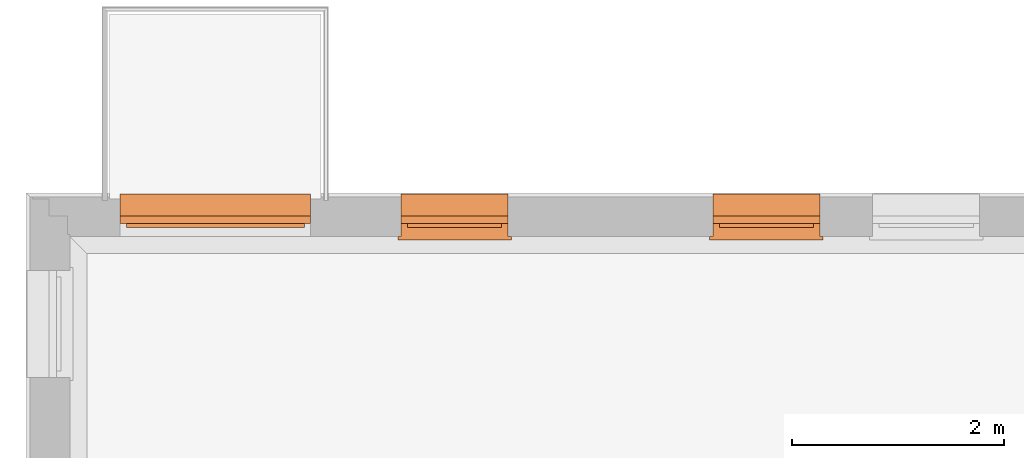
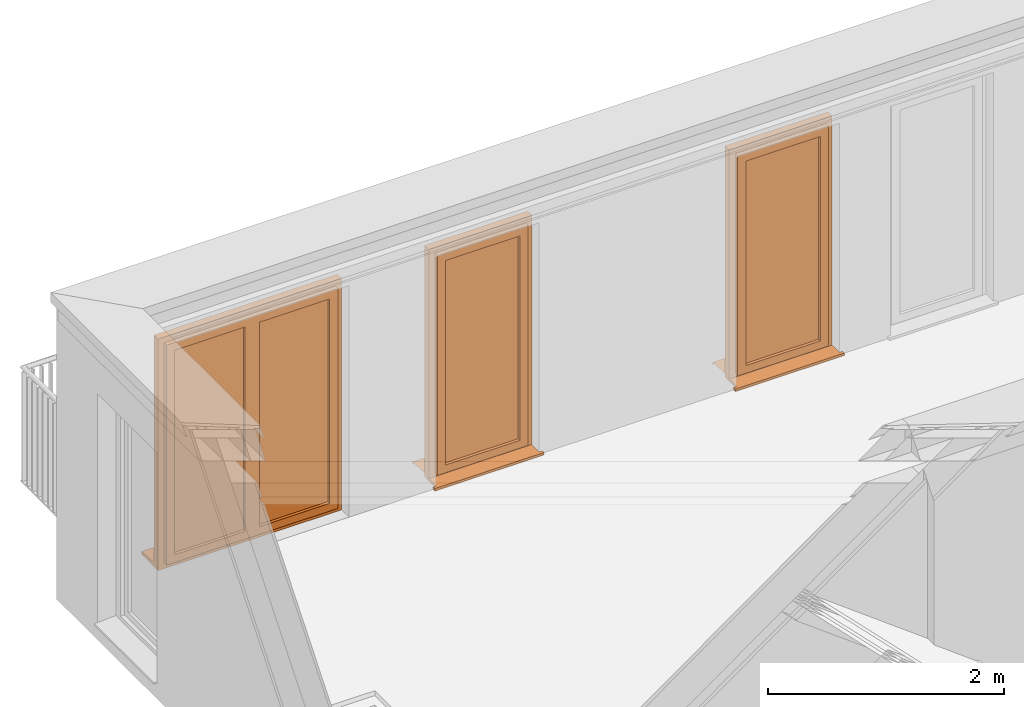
# One storey, part 14 of 15: 3 proxies.
"""IFC4 building model written with IfcOpenShell, lengths in metres."""

from ifc_helpers import new_model, entity, si_unit, converted_unit, derived_unit, direction, frame, origin_with_axes, place, context, subcontext, project, spatial, triangles, type_object, element, save


model = new_model("IFC4")

# Units and contexts
model_context = context("Model", 3, precision=1e-05, world=origin_with_axes(), true_north=direction((-0.526213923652, 0.850352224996)))
body_context = subcontext(model_context, "Body", "Model", "MODEL_VIEW")
ifc_project = project(units=[si_unit("LENGTHUNIT", "METRE"), si_unit("AREAUNIT", "SQUARE_METRE"), si_unit("VOLUMEUNIT", "CUBIC_METRE"), converted_unit("PLANEANGLEUNIT", "DEGREE", entity("IfcPlaneAngleMeasure", 0.0174532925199), si_unit("PLANEANGLEUNIT", "RADIAN"), dimensions=[0, 0, 0, 0, 0, 0, 0]), si_unit("SOLIDANGLEUNIT", "STERADIAN"), converted_unit("TIMEUNIT", "Year", entity("IfcTimeMeasure", 31556926.0), si_unit("TIMEUNIT", "SECOND"), dimensions=[0, 0, 1, 0, 0, 0, 0]), si_unit("MASSUNIT", "GRAM", prefix="KILO"), si_unit("THERMODYNAMICTEMPERATUREUNIT", "DEGREE_CELSIUS"), si_unit("LUMINOUSINTENSITYUNIT", "LUMEN"), si_unit("ENERGYUNIT", "JOULE", prefix="MEGA"), derived_unit("THERMALCONDUCTANCEUNIT", [(si_unit("POWERUNIT", "WATT"), 1), (si_unit("LENGTHUNIT", "METRE"), -1), (si_unit("THERMODYNAMICTEMPERATUREUNIT", "KELVIN"), -1)]), derived_unit("SPECIFICHEATCAPACITYUNIT", [(si_unit("ENERGYUNIT", "JOULE"), 1), (si_unit("MASSUNIT", "GRAM", prefix="KILO"), -1), (si_unit("THERMODYNAMICTEMPERATUREUNIT", "KELVIN"), -1)]), derived_unit("MASSDENSITYUNIT", [(si_unit("MASSUNIT", "GRAM", prefix="KILO"), 1), (si_unit("VOLUMEUNIT", "CUBIC_METRE"), -1)])], contexts=[model_context])

# Site, building, storey
site_placement = place(None, origin_with_axes())
site = spatial("IfcSite", under=ifc_project, at=site_placement, Name="Gelände", CompositionType="ELEMENT")
building_placement = place(site_placement, origin_with_axes())
building = spatial("IfcBuilding", under=site, at=building_placement, Name="Haus vom Nikolaus", CompositionType="ELEMENT")
storey_placement = place(building_placement, frame((0.0, 0.0, 3.75), z_axis=(0.0, 0.0, 1.0), x_axis=(1.0, 0.0, 0.0)))
storey = spatial("IfcBuildingStorey", under=building, at=storey_placement, Name="1. OG", CompositionType="ELEMENT", Elevation=3.75)

# Proxies
building_element_proxy_type_1 = type_object("IfcBuildingElementProxyType", Name="1-Flügelfenster 22", PredefinedType="NOTDEFINED")
proxy_1_placement = place(storey_placement, frame((4.40038204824, 12.6198324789, 0.15), z_axis=(0.0, 0.0, 1.0), x_axis=(-1.0, 5.99993595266e-08, 0.0)))
element("IfcBuildingElementProxy", 1, at=proxy_1_placement, inside=storey, type_object=building_element_proxy_type_1, Name="Fenster-015", PredefinedType="NOTDEFINED", context=body_context, shape_type="Tessellation", body=[
    triangles([(1.17598819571e-08, -0.19600024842, 0.04), (1.01000001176, -0.196000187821, 0.05), (1.17598819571e-08, -0.19600024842, 0.05), (1.01000001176, -0.196000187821, 0.04), (1.0100000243, -0.405000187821, 0.0283333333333), (2.42997479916e-08, -0.40500024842, 0.0283333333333), (2.42997479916e-08, -0.40500024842, 0.00833333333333), (1.0100000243, -0.405000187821, 0.00833333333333), (1.0100000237, -0.395000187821, 0.0183333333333), (2.36997541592e-08, -0.39500024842, 0.0183333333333)], [[1, 2, 3], [1, 4, 2], [5, 1, 6], [1, 5, 4], [7, 5, 6], [7, 8, 5], [9, 7, 10], [7, 9, 8]], closed=False),
    triangles([(0.0, -2.48420416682e-07, 0.025), (7.49992690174e-09, -0.12500024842, 0.0), (7.49992690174e-09, -0.12500024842, 0.025), (0.0, -2.48420416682e-07, 0.0), (1.0100000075, -0.125000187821, 0.0), (1.0100000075, -0.125000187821, 0.025), (1.0399999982, 0.0299998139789, 0.025), (-0.0300000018, 0.0299997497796, 0.025), (1.01, -1.87821063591e-07, 0.025), (1.04, -1.86021081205e-07, 0.025), (-0.03, -2.50220397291e-07, 0.025), (-0.03, -2.50220397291e-07, 0.0), (-0.0300000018, 0.0299997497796, 0.0), (1.01, -1.87821063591e-07, 0.0), (1.0399999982, 0.0299998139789, 0.0), (1.04, -1.86021081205e-07, 0.0)], [[1, 2, 3], [1, 4, 2], [3, 5, 6], [3, 2, 5], [1, 7, 8], [1, 6, 9], [7, 9, 10], [11, 1, 8], [6, 1, 3], [7, 1, 9], [11, 4, 1], [11, 12, 4], [12, 13, 4], [14, 4, 15], [15, 4, 13], [4, 5, 2], [14, 15, 16], [5, 4, 14], [6, 14, 9], [6, 5, 14], [9, 16, 10], [9, 14, 16], [10, 15, 7], [10, 16, 15], [7, 13, 8], [7, 15, 13], [8, 12, 11], [8, 13, 12]], closed=True),
    triangles([(1.0100000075, -0.125000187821, 0.0), (0.9300000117, -0.195000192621, 0.08), (0.9300000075, -0.125000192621, 0.08), (1.0100000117, -0.195000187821, 0.0), (0.9300000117, -0.195000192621, 2.32), (1.0100000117, -0.195000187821, 2.4), (0.9300000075, -0.125000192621, 2.32), (1.0100000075, -0.125000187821, 2.4)], [[1, 2, 3], [2, 1, 4], [5, 4, 6], [5, 2, 4], [7, 2, 5], [7, 3, 2], [3, 8, 1], [8, 3, 7], [1, 6, 4], [1, 8, 6], [8, 5, 6], [8, 7, 5]], closed=True),
    triangles([(7.49992690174e-09, -0.12500024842, 2.4), (1.16998828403e-08, -0.19500024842, 0.0), (1.16998828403e-08, -0.19500024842, 2.4), (7.49992690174e-09, -0.12500024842, 0.0), (0.0800000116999, -0.19500024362, 2.32), (0.0800000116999, -0.19500024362, 0.08), (0.0800000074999, -0.12500024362, 2.32), (0.0800000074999, -0.12500024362, 0.08)], [[1, 2, 3], [1, 4, 2], [3, 2, 5], [5, 2, 6], [7, 3, 5], [7, 1, 3], [7, 4, 1], [7, 8, 4], [8, 2, 4], [2, 8, 6], [8, 5, 6], [8, 7, 5]], closed=True),
    triangles([(1.0100000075, -0.125000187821, 0.0), (1.16998828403e-08, -0.19500024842, 0.0), (7.49992690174e-09, -0.12500024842, 0.0), (1.0100000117, -0.195000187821, 0.0), (0.5050000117, -0.195000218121, 0.08), (0.9300000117, -0.195000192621, 0.08), (0.0800000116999, -0.19500024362, 0.08), (0.0800000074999, -0.12500024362, 0.08), (0.5050000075, -0.125000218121, 0.08), (0.9300000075, -0.125000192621, 0.08)], [[1, 2, 3], [2, 1, 4], [2, 4, 5], [5, 4, 6], [2, 5, 7], [8, 2, 7], [8, 3, 2], [9, 3, 8], [10, 1, 9], [3, 9, 1], [1, 6, 4], [1, 10, 6], [9, 6, 10], [6, 9, 5], [9, 7, 5], [9, 8, 7]], closed=True),
    triangles([(1.0100000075, -0.125000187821, 2.4), (0.9300000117, -0.195000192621, 2.32), (0.9300000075, -0.125000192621, 2.32), (1.0100000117, -0.195000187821, 2.4), (0.5050000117, -0.195000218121, 2.32), (1.16998828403e-08, -0.19500024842, 2.4), (0.0800000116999, -0.19500024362, 2.32), (0.5050000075, -0.125000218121, 2.32), (7.49992690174e-09, -0.12500024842, 2.4), (0.0800000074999, -0.12500024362, 2.32)], [[1, 2, 3], [2, 1, 4], [5, 6, 7], [2, 4, 5], [6, 5, 4], [8, 2, 5], [8, 3, 2], [9, 1, 8], [8, 1, 3], [9, 8, 10], [1, 6, 4], [1, 9, 6], [10, 6, 9], [6, 10, 7], [8, 7, 10], [7, 8, 5]], closed=True),
    triangles([(0.9500000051, -0.085000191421, 0.06), (0.8700000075, -0.125000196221, 0.14), (0.8700000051, -0.085000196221, 0.14), (0.9500000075, -0.125000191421, 0.06), (0.8700000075, -0.125000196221, 2.26), (0.9500000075, -0.125000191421, 2.34), (0.8700000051, -0.085000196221, 2.26), (0.9500000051, -0.085000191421, 2.34)], [[1, 2, 3], [2, 1, 4], [5, 4, 6], [5, 2, 4], [7, 2, 5], [7, 3, 2], [8, 1, 7], [7, 1, 3], [1, 6, 4], [1, 8, 6], [7, 6, 8], [6, 7, 5]], closed=True),
    triangles([(0.1400000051, -0.0850002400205, 0.14), (0.0600000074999, -0.12500024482, 0.06), (0.0600000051, -0.0850002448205, 0.06), (0.1400000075, -0.125000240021, 0.14), (0.0600000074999, -0.12500024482, 2.34), (0.0600000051, -0.0850002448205, 2.34), (0.1400000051, -0.0850002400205, 2.26), (0.1400000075, -0.125000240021, 2.26)], [[1, 2, 3], [1, 4, 2], [3, 5, 6], [3, 2, 5], [7, 3, 6], [7, 1, 3], [7, 4, 1], [7, 8, 4], [5, 2, 8], [8, 2, 4], [5, 7, 6], [7, 5, 8]], closed=True),
    triangles([(0.9500000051, -0.085000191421, 0.06), (0.0600000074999, -0.12500024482, 0.06), (0.0600000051, -0.0850002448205, 0.06), (0.9500000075, -0.125000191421, 0.06), (0.8700000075, -0.125000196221, 0.14), (0.1400000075, -0.125000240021, 0.14), (0.1400000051, -0.0850002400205, 0.14), (0.8700000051, -0.085000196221, 0.14)], [[1, 2, 3], [2, 1, 4], [5, 2, 4], [2, 5, 6], [7, 2, 6], [7, 3, 2], [8, 3, 7], [3, 8, 1], [1, 5, 4], [1, 8, 5], [8, 6, 5], [8, 7, 6]], closed=True),
    triangles([(0.0600000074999, -0.12500024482, 2.34), (0.9500000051, -0.085000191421, 2.34), (0.0600000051, -0.0850002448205, 2.34), (0.9500000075, -0.125000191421, 2.34), (0.8700000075, -0.125000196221, 2.26), (0.8700000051, -0.085000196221, 2.26), (0.1400000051, -0.0850002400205, 2.26), (0.1400000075, -0.125000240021, 2.26)], [[1, 2, 3], [2, 1, 4], [2, 5, 6], [2, 4, 5], [3, 2, 7], [7, 2, 6], [7, 1, 3], [7, 8, 1], [8, 4, 1], [8, 5, 4], [6, 8, 7], [6, 5, 8]], closed=True),
    triangles([(0.8700000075, -0.125000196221, 0.14), (0.9300000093, -0.155000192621, 0.08), (0.8700000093, -0.155000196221, 0.14), (0.9300000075, -0.125000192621, 0.08), (0.9300000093, -0.155000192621, 2.32), (0.8700000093, -0.155000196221, 2.26), (0.8700000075, -0.125000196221, 2.26), (0.9300000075, -0.125000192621, 2.32)], [[1, 2, 3], [1, 4, 2], [3, 5, 6], [5, 3, 2], [7, 3, 6], [7, 1, 3], [1, 8, 4], [8, 1, 7], [4, 5, 2], [4, 8, 5], [7, 5, 8], [5, 7, 6]], closed=True),
    triangles([(0.1400000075, -0.125000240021, 0.14), (0.0800000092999, -0.15500024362, 0.08), (0.0800000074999, -0.12500024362, 0.08), (0.1400000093, -0.155000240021, 0.14), (0.0800000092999, -0.15500024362, 2.32), (0.0800000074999, -0.12500024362, 2.32), (0.1400000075, -0.125000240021, 2.26), (0.1400000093, -0.155000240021, 2.26)], [[1, 2, 3], [1, 4, 2], [3, 5, 6], [3, 2, 5], [1, 6, 7], [6, 1, 3], [7, 4, 1], [7, 8, 4], [4, 5, 2], [5, 4, 8], [6, 8, 7], [6, 5, 8]], closed=True),
    triangles([(0.9300000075, -0.125000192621, 0.08), (0.0800000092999, -0.15500024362, 0.08), (0.0800000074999, -0.12500024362, 0.08), (0.9300000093, -0.155000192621, 0.08), (0.1400000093, -0.155000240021, 0.14), (0.8700000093, -0.155000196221, 0.14), (0.1400000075, -0.125000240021, 0.14), (0.8700000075, -0.125000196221, 0.14)], [[1, 2, 3], [2, 1, 4], [2, 4, 5], [5, 4, 6], [7, 2, 5], [7, 3, 2], [7, 1, 3], [7, 8, 1], [8, 4, 1], [4, 8, 6], [8, 5, 6], [8, 7, 5]], closed=True),
    triangles([(0.0800000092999, -0.15500024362, 2.32), (0.9300000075, -0.125000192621, 2.32), (0.0800000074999, -0.12500024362, 2.32), (0.9300000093, -0.155000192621, 2.32), (0.8700000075, -0.125000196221, 2.26), (0.8700000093, -0.155000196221, 2.26), (0.1400000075, -0.125000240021, 2.26), (0.1400000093, -0.155000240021, 2.26)], [[1, 2, 3], [2, 1, 4], [4, 5, 2], [5, 4, 6], [3, 2, 7], [7, 2, 5], [7, 1, 3], [7, 8, 1], [8, 4, 1], [8, 6, 4], [5, 8, 7], [5, 6, 8]], closed=True),
    triangles([(0.1400000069, -0.115000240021, 0.14), (0.8700000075, -0.125000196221, 0.14), (0.1400000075, -0.125000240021, 0.14), (0.8700000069, -0.115000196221, 0.14), (0.1400000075, -0.125000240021, 2.26), (0.8700000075, -0.125000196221, 2.26), (0.1400000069, -0.115000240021, 2.26), (0.8700000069, -0.115000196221, 2.26)], [[1, 2, 3], [1, 4, 2], [5, 2, 6], [5, 3, 2], [7, 3, 5], [7, 1, 3], [7, 4, 1], [7, 8, 4], [4, 6, 2], [4, 8, 6], [7, 6, 8], [6, 7, 5]], closed=True),
])
proxy_2_placement = place(storey_placement, frame((7.34538204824, 12.6198323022, 0.15), z_axis=(0.0, 0.0, 1.0), x_axis=(-1.0, 5.99993595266e-08, 0.0)))
element("IfcBuildingElementProxy", 2, at=proxy_2_placement, inside=storey, type_object=building_element_proxy_type_1, Name="Fenster-002", PredefinedType="NOTDEFINED", context=body_context, shape_type="Tessellation", body=[
    triangles([(1.01000001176, -0.196000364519, 0.04), (1.17598872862e-08, -0.196000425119, 0.05), (1.17598872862e-08, -0.196000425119, 0.04), (1.01000001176, -0.196000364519, 0.05), (1.0100000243, -0.405000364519, 0.0283333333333), (2.42997533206e-08, -0.405000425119, 0.0283333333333), (1.0100000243, -0.405000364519, 0.00833333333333), (2.42997533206e-08, -0.405000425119, 0.00833333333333), (1.0100000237, -0.395000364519, 0.0183333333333), (2.36997594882e-08, -0.395000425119, 0.0183333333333)], [[1, 2, 3], [1, 4, 2], [5, 3, 6], [5, 1, 3], [7, 6, 8], [7, 5, 6], [9, 8, 10], [9, 7, 8]], closed=False),
    triangles([(1.01, -3.64519175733e-07, 0.025), (1.0100000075, -0.125000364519, 0.0), (1.01, -3.64519175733e-07, 0.0), (1.0100000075, -0.125000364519, 0.025), (-0.0300000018, 0.0299995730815, 0.0), (1.0399999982, 0.0299996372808, 0.0), (0.0, -4.251185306e-07, 0.0), (7.49993223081e-09, -0.125000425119, 0.0), (-0.03, -4.26918511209e-07, 0.0), (1.04, -3.62719195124e-07, 0.0), (1.04, -3.62719195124e-07, 0.025), (1.0399999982, 0.0299996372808, 0.025), (0.0, -4.251185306e-07, 0.025), (-0.0300000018, 0.0299995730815, 0.025), (7.49993223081e-09, -0.125000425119, 0.025), (-0.03, -4.26918511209e-07, 0.025)], [[1, 2, 3], [1, 4, 2], [3, 5, 6], [7, 2, 8], [5, 7, 9], [10, 3, 6], [3, 2, 7], [5, 3, 7], [11, 3, 10], [11, 1, 3], [11, 12, 1], [13, 1, 14], [14, 1, 12], [13, 15, 4], [13, 14, 16], [1, 13, 4], [4, 8, 2], [4, 15, 8], [15, 7, 8], [15, 13, 7], [13, 9, 7], [13, 16, 9], [16, 5, 9], [16, 14, 5], [14, 6, 5], [14, 12, 6], [12, 10, 6], [12, 11, 10]], closed=True),
    triangles([(0.0800000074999, -0.125000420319, 0.08), (1.16998881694e-08, -0.195000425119, 0.0), (7.49993223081e-09, -0.125000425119, 0.0), (0.0800000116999, -0.195000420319, 0.08), (1.16998881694e-08, -0.195000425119, 2.4), (7.49993223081e-09, -0.125000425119, 2.4), (0.0800000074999, -0.125000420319, 2.32), (0.0800000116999, -0.195000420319, 2.32)], [[1, 2, 3], [1, 4, 2], [3, 5, 6], [3, 2, 5], [7, 3, 6], [7, 1, 3], [7, 4, 1], [7, 8, 4], [5, 2, 8], [8, 2, 4], [5, 7, 6], [7, 5, 8]], closed=True),
    triangles([(1.0100000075, -0.125000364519, 2.4), (1.0100000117, -0.195000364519, 0.0), (1.0100000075, -0.125000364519, 0.0), (1.0100000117, -0.195000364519, 2.4), (0.9300000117, -0.195000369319, 0.08), (0.9300000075, -0.125000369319, 0.08), (0.9300000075, -0.125000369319, 2.32), (0.9300000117, -0.195000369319, 2.32)], [[1, 2, 3], [1, 4, 2], [3, 5, 6], [3, 2, 5], [6, 1, 3], [1, 6, 7], [8, 1, 7], [1, 8, 4], [8, 2, 4], [8, 5, 2], [6, 8, 7], [6, 5, 8]], closed=True),
    triangles([(1.0100000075, -0.125000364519, 0.0), (1.16998881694e-08, -0.195000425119, 0.0), (7.49993223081e-09, -0.125000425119, 0.0), (1.0100000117, -0.195000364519, 0.0), (0.0800000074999, -0.125000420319, 0.08), (0.0800000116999, -0.195000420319, 0.08), (0.5050000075, -0.125000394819, 0.08), (0.9300000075, -0.125000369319, 0.08), (0.9300000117, -0.195000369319, 0.08), (0.5050000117, -0.195000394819, 0.08)], [[1, 2, 3], [1, 4, 2], [2, 5, 3], [5, 2, 6], [1, 3, 7], [7, 3, 5], [1, 7, 8], [9, 1, 8], [1, 9, 4], [10, 4, 9], [6, 2, 10], [4, 10, 2], [6, 7, 5], [7, 6, 10], [10, 8, 7], [8, 10, 9]], closed=True),
    triangles([(0.0800000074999, -0.125000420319, 2.32), (1.16998881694e-08, -0.195000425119, 2.4), (7.49993223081e-09, -0.125000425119, 2.4), (0.0800000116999, -0.195000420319, 2.32), (1.0100000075, -0.125000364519, 2.4), (1.0100000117, -0.195000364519, 2.4), (0.5050000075, -0.125000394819, 2.32), (0.9300000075, -0.125000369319, 2.32), (0.5050000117, -0.195000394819, 2.32), (0.9300000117, -0.195000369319, 2.32)], [[1, 2, 3], [1, 4, 2], [2, 5, 3], [5, 2, 6], [7, 5, 8], [1, 3, 7], [5, 7, 3], [7, 4, 1], [7, 9, 4], [6, 2, 9], [9, 2, 4], [6, 9, 10], [5, 10, 8], [5, 6, 10], [8, 9, 7], [8, 10, 9]], closed=True),
    triangles([(0.1400000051, -0.0850004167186, 0.14), (0.0600000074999, -0.125000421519, 0.06), (0.0600000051, -0.0850004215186, 0.06), (0.1400000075, -0.125000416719, 0.14), (0.0600000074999, -0.125000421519, 2.34), (0.0600000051, -0.0850004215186, 2.34), (0.1400000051, -0.0850004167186, 2.26), (0.1400000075, -0.125000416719, 2.26)], [[1, 2, 3], [1, 4, 2], [3, 5, 6], [3, 2, 5], [7, 3, 6], [7, 1, 3], [7, 4, 1], [7, 8, 4], [4, 5, 2], [5, 4, 8], [5, 7, 6], [7, 5, 8]], closed=True),
    triangles([(0.8700000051, -0.0850003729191, 0.14), (0.9500000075, -0.125000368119, 0.06), (0.8700000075, -0.125000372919, 0.14), (0.9500000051, -0.0850003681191, 0.06), (0.8700000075, -0.125000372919, 2.26), (0.9500000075, -0.125000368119, 2.34), (0.8700000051, -0.0850003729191, 2.26), (0.9500000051, -0.0850003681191, 2.34)], [[1, 2, 3], [1, 4, 2], [5, 2, 6], [5, 3, 2], [7, 3, 5], [7, 1, 3], [8, 4, 7], [7, 4, 1], [4, 6, 2], [4, 8, 6], [7, 6, 8], [6, 7, 5]], closed=True),
    triangles([(0.9500000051, -0.0850003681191, 0.06), (0.0600000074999, -0.125000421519, 0.06), (0.0600000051, -0.0850004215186, 0.06), (0.9500000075, -0.125000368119, 0.06), (0.1400000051, -0.0850004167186, 0.14), (0.1400000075, -0.125000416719, 0.14), (0.8700000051, -0.0850003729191, 0.14), (0.8700000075, -0.125000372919, 0.14)], [[1, 2, 3], [1, 4, 2], [2, 5, 3], [5, 2, 6], [1, 3, 7], [7, 3, 5], [7, 4, 1], [7, 8, 4], [8, 2, 4], [8, 6, 2], [6, 7, 5], [7, 6, 8]], closed=True),
    triangles([(0.9500000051, -0.0850003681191, 2.34), (0.0600000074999, -0.125000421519, 2.34), (0.9500000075, -0.125000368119, 2.34), (0.0600000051, -0.0850004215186, 2.34), (0.8700000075, -0.125000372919, 2.26), (0.1400000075, -0.125000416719, 2.26), (0.8700000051, -0.0850003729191, 2.26), (0.1400000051, -0.0850004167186, 2.26)], [[1, 2, 3], [1, 4, 2], [3, 2, 5], [5, 2, 6], [7, 3, 5], [7, 1, 3], [7, 4, 1], [7, 8, 4], [8, 2, 4], [2, 8, 6], [7, 6, 8], [6, 7, 5]], closed=True),
    triangles([(0.1400000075, -0.125000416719, 0.14), (0.0800000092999, -0.155000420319, 0.08), (0.0800000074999, -0.125000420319, 0.08), (0.1400000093, -0.155000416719, 0.14), (0.0800000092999, -0.155000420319, 2.32), (0.0800000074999, -0.125000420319, 2.32), (0.1400000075, -0.125000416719, 2.26), (0.1400000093, -0.155000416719, 2.26)], [[1, 2, 3], [1, 4, 2], [3, 5, 6], [3, 2, 5], [1, 6, 7], [6, 1, 3], [7, 4, 1], [7, 8, 4], [4, 5, 2], [5, 4, 8], [6, 8, 7], [6, 5, 8]], closed=True),
    triangles([(0.9300000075, -0.125000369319, 0.08), (0.8700000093, -0.155000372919, 0.14), (0.8700000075, -0.125000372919, 0.14), (0.9300000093, -0.155000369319, 0.08), (0.9300000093, -0.155000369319, 2.32), (0.8700000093, -0.155000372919, 2.26), (0.8700000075, -0.125000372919, 2.26), (0.9300000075, -0.125000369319, 2.32)], [[1, 2, 3], [2, 1, 4], [2, 5, 6], [5, 2, 4], [7, 2, 6], [7, 3, 2], [8, 1, 7], [7, 1, 3], [1, 5, 4], [1, 8, 5], [8, 6, 5], [8, 7, 6]], closed=True),
    triangles([(0.9300000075, -0.125000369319, 0.08), (0.0800000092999, -0.155000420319, 0.08), (0.0800000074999, -0.125000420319, 0.08), (0.9300000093, -0.155000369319, 0.08), (0.1400000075, -0.125000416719, 0.14), (0.1400000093, -0.155000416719, 0.14), (0.8700000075, -0.125000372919, 0.14), (0.8700000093, -0.155000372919, 0.14)], [[1, 2, 3], [1, 4, 2], [2, 5, 3], [5, 2, 6], [1, 3, 7], [7, 3, 5], [8, 1, 7], [1, 8, 4], [8, 2, 4], [8, 6, 2], [6, 7, 5], [7, 6, 8]], closed=True),
    triangles([(0.9300000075, -0.125000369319, 2.32), (0.0800000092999, -0.155000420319, 2.32), (0.9300000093, -0.155000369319, 2.32), (0.0800000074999, -0.125000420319, 2.32), (0.8700000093, -0.155000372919, 2.26), (0.1400000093, -0.155000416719, 2.26), (0.8700000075, -0.125000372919, 2.26), (0.1400000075, -0.125000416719, 2.26)], [[1, 2, 3], [1, 4, 2], [3, 2, 5], [5, 2, 6], [7, 3, 5], [7, 1, 3], [7, 4, 1], [7, 8, 4], [4, 6, 2], [4, 8, 6], [7, 6, 8], [6, 7, 5]], closed=True),
    triangles([(0.8700000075, -0.125000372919, 0.14), (0.1400000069, -0.115000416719, 0.14), (0.8700000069, -0.115000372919, 0.14), (0.1400000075, -0.125000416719, 0.14), (0.1400000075, -0.125000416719, 2.26), (0.1400000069, -0.115000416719, 2.26), (0.8700000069, -0.115000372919, 2.26), (0.8700000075, -0.125000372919, 2.26)], [[1, 2, 3], [2, 1, 4], [2, 5, 6], [2, 4, 5], [7, 2, 6], [7, 3, 2], [7, 1, 3], [7, 8, 1], [8, 4, 1], [8, 5, 4], [6, 8, 7], [6, 5, 8]], closed=True),
])
building_element_proxy_type_2 = type_object("IfcBuildingElementProxyType", Name="2-Flügelfenster 22", PredefinedType="NOTDEFINED")
proxy_3_placement = place(storey_placement, frame((2.53499761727, 12.6198325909, 0.15), z_axis=(0.0, 0.0, 1.0), x_axis=(-1.0, 5.99993595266e-08, 0.0)))
element("IfcBuildingElementProxy", 3, at=proxy_3_placement, inside=storey, type_object=building_element_proxy_type_2, Name="Fenster-007", PredefinedType="NOTDEFINED", context=body_context, shape_type="Tessellation", body=[
    triangles([(1.8000000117, -0.1950000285, 0.05), (1.16998792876e-08, -0.195000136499, 0.0), (1.16998792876e-08, -0.195000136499, 0.05), (1.8000000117, -0.1950000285, 0.0), (1.229987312e-08, -0.205000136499, 0.04), (2.32797559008e-08, -0.388000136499, 0.0), (2.32797559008e-08, -0.388000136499, 0.007), (2.42997448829e-08, -0.405000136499, 0.03), (2.36997510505e-08, -0.395000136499, 0.007), (2.42997448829e-08, -0.405000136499, 0.0), (2.36997510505e-08, -0.395000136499, 0.0), (1.229987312e-08, -0.205000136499, 0.05), (1.8000000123, -0.2050000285, 0.05), (1.80000002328, -0.3880000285, 0.0), (1.8000000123, -0.2050000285, 0.04), (1.80000002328, -0.3880000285, 0.007), (1.8000000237, -0.3950000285, 0.007), (1.8000000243, -0.4050000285, 0.0), (1.8000000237, -0.3950000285, 0.0), (1.8000000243, -0.4050000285, 0.03)], [[1, 2, 3], [1, 4, 2], [3, 2, 5], [5, 6, 7], [8, 7, 9], [10, 8, 9], [10, 9, 11], [6, 5, 2], [3, 5, 12], [8, 5, 7], [1, 12, 13], [12, 1, 3], [14, 15, 16], [15, 1, 13], [17, 18, 19], [1, 15, 4], [15, 20, 16], [15, 14, 4], [16, 20, 17], [18, 17, 20], [4, 6, 2], [4, 14, 6], [14, 7, 6], [14, 16, 7], [17, 7, 16], [7, 17, 9], [17, 11, 9], [17, 19, 11], [18, 11, 19], [11, 18, 10], [18, 8, 10], [18, 20, 8], [20, 5, 8], [20, 15, 5], [15, 12, 5], [15, 13, 12]], closed=True),
    triangles([(0.0800000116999, -0.195000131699, 0.08), (7.49992423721e-09, -0.125000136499, 0.0), (0.0800000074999, -0.125000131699, 0.08), (1.16998792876e-08, -0.195000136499, 0.0), (1.16998792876e-08, -0.195000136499, 2.4), (7.49992423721e-09, -0.125000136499, 2.4), (0.0800000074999, -0.125000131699, 2.32), (0.0800000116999, -0.195000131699, 2.32)], [[1, 2, 3], [2, 1, 4], [2, 5, 6], [2, 4, 5], [7, 2, 6], [7, 3, 2], [7, 1, 3], [7, 8, 1], [5, 4, 8], [8, 4, 1], [6, 8, 7], [6, 5, 8]], closed=True),
    triangles([(1.8000000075, -0.1250000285, 2.4), (1.8000000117, -0.1950000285, 0.0), (1.8000000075, -0.1250000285, 0.0), (1.8000000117, -0.1950000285, 2.4), (1.7200000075, -0.1250000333, 0.08), (1.7200000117, -0.1950000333, 0.08), (1.7200000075, -0.1250000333, 2.32), (1.7200000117, -0.1950000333, 2.32)], [[1, 2, 3], [1, 4, 2], [2, 5, 3], [5, 2, 6], [5, 1, 3], [1, 5, 7], [8, 1, 7], [1, 8, 4], [6, 4, 8], [4, 6, 2], [5, 8, 7], [5, 6, 8]], closed=True),
    triangles([(1.8000000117, -0.1950000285, 0.0), (7.49992423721e-09, -0.125000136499, 0.0), (1.8000000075, -0.1250000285, 0.0), (1.16998792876e-08, -0.195000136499, 0.0), (0.0800000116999, -0.195000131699, 0.08), (0.0800000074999, -0.125000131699, 0.08), (0.9000000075, -0.125000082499, 0.08), (1.7200000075, -0.1250000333, 0.08), (1.7200000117, -0.1950000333, 0.08), (0.9000000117, -0.195000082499, 0.08)], [[1, 2, 3], [2, 1, 4], [2, 5, 6], [2, 4, 5], [3, 2, 7], [7, 2, 6], [3, 7, 8], [9, 3, 8], [3, 9, 1], [10, 1, 9], [5, 4, 10], [1, 10, 4], [6, 10, 7], [6, 5, 10], [7, 9, 8], [7, 10, 9]], closed=True),
    triangles([(0.0800000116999, -0.195000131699, 2.32), (7.49992423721e-09, -0.125000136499, 2.4), (0.0800000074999, -0.125000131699, 2.32), (1.16998792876e-08, -0.195000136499, 2.4), (1.8000000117, -0.1950000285, 2.4), (1.8000000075, -0.1250000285, 2.4), (0.9000000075, -0.125000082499, 2.32), (1.7200000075, -0.1250000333, 2.32), (0.9000000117, -0.195000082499, 2.32), (1.7200000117, -0.1950000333, 2.32)], [[1, 2, 3], [2, 1, 4], [2, 5, 6], [2, 4, 5], [7, 6, 8], [3, 2, 7], [6, 7, 2], [9, 3, 7], [3, 9, 1], [5, 4, 9], [9, 4, 1], [5, 9, 10], [5, 8, 6], [8, 5, 10], [10, 7, 8], [7, 10, 9]], closed=True),
    triangles([(0.1400000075, -0.125000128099, 0.14), (0.0600000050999, -0.0850001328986, 0.06), (0.1400000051, -0.0850001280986, 0.14), (0.0600000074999, -0.125000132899, 0.06), (0.0600000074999, -0.125000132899, 2.34), (0.0600000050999, -0.0850001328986, 2.34), (0.1400000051, -0.0850001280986, 2.26), (0.1400000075, -0.125000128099, 2.26)], [[1, 2, 3], [2, 1, 4], [2, 5, 6], [2, 4, 5], [7, 2, 6], [7, 3, 2], [7, 1, 3], [7, 8, 1], [5, 4, 8], [8, 4, 1], [5, 7, 6], [7, 5, 8]], closed=True),
    triangles([(0.8900000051, -0.0850000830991, 2.34), (0.8900000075, -0.125000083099, 0.06), (0.8900000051, -0.0850000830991, 0.06), (0.8900000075, -0.125000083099, 2.34), (0.8300000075, -0.125000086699, 0.14), (0.8300000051, -0.0850000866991, 0.14), (0.8300000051, -0.0850000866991, 2.26), (0.8300000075, -0.125000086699, 2.26)], [[1, 2, 3], [1, 4, 2], [3, 5, 6], [3, 2, 5], [1, 3, 7], [7, 3, 6], [8, 1, 7], [1, 8, 4], [8, 2, 4], [8, 5, 2], [6, 8, 7], [6, 5, 8]], closed=True),
    triangles([(0.8900000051, -0.0850000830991, 0.06), (0.0600000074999, -0.125000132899, 0.06), (0.0600000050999, -0.0850001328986, 0.06), (0.8900000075, -0.125000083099, 0.06), (0.1400000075, -0.125000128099, 0.14), (0.1400000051, -0.0850001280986, 0.14), (0.8300000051, -0.0850000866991, 0.14), (0.8300000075, -0.125000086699, 0.14)], [[1, 2, 3], [1, 4, 2], [3, 5, 6], [3, 2, 5], [6, 1, 3], [1, 6, 7], [8, 1, 7], [1, 8, 4], [5, 4, 8], [4, 5, 2], [5, 7, 6], [7, 5, 8]], closed=True),
    triangles([(0.1400000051, -0.0850001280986, 2.26), (0.0600000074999, -0.125000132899, 2.34), (0.0600000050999, -0.0850001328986, 2.34), (0.1400000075, -0.125000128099, 2.26), (0.8900000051, -0.0850000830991, 2.34), (0.8900000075, -0.125000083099, 2.34), (0.8300000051, -0.0850000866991, 2.26), (0.8300000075, -0.125000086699, 2.26)], [[1, 2, 3], [1, 4, 2], [2, 5, 3], [5, 2, 6], [1, 5, 7], [5, 1, 3], [7, 4, 1], [7, 8, 4], [4, 6, 2], [6, 4, 8], [5, 8, 7], [5, 6, 8]], closed=True),
    triangles([(0.1400000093, -0.155000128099, 0.14), (0.0800000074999, -0.125000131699, 0.08), (0.1400000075, -0.125000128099, 0.14), (0.0800000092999, -0.155000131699, 0.08), (0.0800000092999, -0.155000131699, 2.32), (0.0800000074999, -0.125000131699, 2.32), (0.1400000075, -0.125000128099, 2.26), (0.1400000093, -0.155000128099, 2.26)], [[1, 2, 3], [2, 1, 4], [2, 5, 6], [2, 4, 5], [7, 2, 6], [7, 3, 2], [7, 1, 3], [7, 8, 1], [5, 4, 8], [8, 4, 1], [6, 8, 7], [6, 5, 8]], closed=True),
    triangles([(0.9100000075, -0.125000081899, 2.32), (0.9100000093, -0.155000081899, 0.08), (0.9100000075, -0.125000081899, 0.08), (0.9100000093, -0.155000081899, 2.32), (0.8300000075, -0.125000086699, 0.14), (0.8300000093, -0.155000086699, 0.14), (0.8300000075, -0.125000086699, 2.26), (0.8300000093, -0.155000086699, 2.26)], [[1, 2, 3], [1, 4, 2], [2, 5, 3], [5, 2, 6], [5, 1, 3], [1, 5, 7], [7, 4, 1], [7, 8, 4], [6, 4, 8], [4, 6, 2], [5, 8, 7], [5, 6, 8]], closed=True),
    triangles([(0.9100000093, -0.155000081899, 0.08), (0.0800000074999, -0.125000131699, 0.08), (0.9100000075, -0.125000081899, 0.08), (0.0800000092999, -0.155000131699, 0.08), (0.1400000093, -0.155000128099, 0.14), (0.1400000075, -0.125000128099, 0.14), (0.8300000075, -0.125000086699, 0.14), (0.8300000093, -0.155000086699, 0.14)], [[1, 2, 3], [2, 1, 4], [2, 5, 6], [2, 4, 5], [3, 2, 7], [7, 2, 6], [7, 1, 3], [7, 8, 1], [8, 4, 1], [8, 5, 4], [6, 8, 7], [6, 5, 8]], closed=True),
    triangles([(0.1400000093, -0.155000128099, 2.26), (0.0800000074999, -0.125000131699, 2.32), (0.1400000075, -0.125000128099, 2.26), (0.0800000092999, -0.155000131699, 2.32), (0.9100000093, -0.155000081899, 2.32), (0.9100000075, -0.125000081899, 2.32), (0.8300000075, -0.125000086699, 2.26), (0.8300000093, -0.155000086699, 2.26)], [[1, 2, 3], [2, 1, 4], [2, 5, 6], [2, 4, 5], [7, 2, 6], [7, 3, 2], [8, 3, 7], [3, 8, 1], [5, 4, 8], [8, 4, 1], [5, 7, 6], [7, 5, 8]], closed=True),
    triangles([(0.8300000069, -0.115000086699, 0.14), (0.1400000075, -0.125000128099, 0.14), (0.1400000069, -0.115000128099, 0.14), (0.8300000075, -0.125000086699, 0.14), (0.1400000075, -0.125000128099, 2.26), (0.1400000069, -0.115000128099, 2.26), (0.8300000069, -0.115000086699, 2.26), (0.8300000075, -0.125000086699, 2.26)], [[1, 2, 3], [1, 4, 2], [3, 5, 6], [3, 2, 5], [7, 3, 6], [7, 1, 3], [7, 4, 1], [7, 8, 4], [8, 2, 4], [8, 5, 2], [5, 7, 6], [7, 5, 8]], closed=True),
    triangles([(0.9700000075, -0.125000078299, 0.14), (0.8900000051, -0.0850000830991, 0.06), (0.9700000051, -0.0850000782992, 0.14), (0.8900000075, -0.125000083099, 0.06), (0.8900000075, -0.125000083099, 2.34), (0.8900000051, -0.0850000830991, 2.34), (0.9700000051, -0.0850000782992, 2.26), (0.9700000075, -0.125000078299, 2.26)], [[1, 2, 3], [2, 1, 4], [2, 5, 6], [2, 4, 5], [7, 2, 6], [7, 3, 2], [7, 1, 3], [7, 8, 1], [5, 4, 8], [8, 4, 1], [6, 8, 7], [6, 5, 8]], closed=True),
    triangles([(1.6600000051, -0.0850000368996, 0.14), (1.7400000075, -0.1250000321, 0.06), (1.6600000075, -0.1250000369, 0.14), (1.7400000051, -0.0850000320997, 0.06), (1.6600000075, -0.1250000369, 2.26), (1.7400000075, -0.1250000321, 2.34), (1.6600000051, -0.0850000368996, 2.26), (1.7400000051, -0.0850000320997, 2.34)], [[1, 2, 3], [1, 4, 2], [5, 2, 6], [5, 3, 2], [7, 3, 5], [7, 1, 3], [8, 4, 7], [7, 4, 1], [4, 6, 2], [4, 8, 6], [7, 6, 8], [6, 7, 5]], closed=True),
    triangles([(1.7400000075, -0.1250000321, 0.06), (0.8900000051, -0.0850000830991, 0.06), (1.7400000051, -0.0850000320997, 0.06), (0.8900000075, -0.125000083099, 0.06), (0.9700000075, -0.125000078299, 0.14), (0.9700000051, -0.0850000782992, 0.14), (1.6600000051, -0.0850000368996, 0.14), (1.6600000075, -0.1250000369, 0.14)], [[1, 2, 3], [2, 1, 4], [2, 5, 6], [2, 4, 5], [3, 2, 7], [7, 2, 6], [7, 1, 3], [7, 8, 1], [8, 4, 1], [8, 5, 4], [5, 7, 6], [7, 5, 8]], closed=True),
    triangles([(0.8900000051, -0.0850000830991, 2.34), (1.7400000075, -0.1250000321, 2.34), (1.7400000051, -0.0850000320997, 2.34), (0.8900000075, -0.125000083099, 2.34), (1.6600000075, -0.1250000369, 2.26), (0.9700000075, -0.125000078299, 2.26), (1.6600000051, -0.0850000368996, 2.26), (0.9700000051, -0.0850000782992, 2.26)], [[1, 2, 3], [2, 1, 4], [2, 4, 5], [5, 4, 6], [3, 5, 7], [5, 3, 2], [8, 3, 7], [3, 8, 1], [1, 6, 4], [1, 8, 6], [7, 6, 8], [6, 7, 5]], closed=True),
    triangles([(0.9700000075, -0.125000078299, 0.14), (0.9100000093, -0.155000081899, 0.08), (0.9100000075, -0.125000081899, 0.08), (0.9700000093, -0.155000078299, 0.14), (0.9100000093, -0.155000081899, 2.32), (0.9100000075, -0.125000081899, 2.32), (0.9700000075, -0.125000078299, 2.26), (0.9700000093, -0.155000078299, 2.26)], [[1, 2, 3], [1, 4, 2], [3, 5, 6], [3, 2, 5], [1, 6, 7], [6, 1, 3], [7, 4, 1], [7, 8, 4], [5, 2, 8], [8, 2, 4], [5, 7, 6], [7, 5, 8]], closed=True),
    triangles([(1.6600000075, -0.1250000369, 0.14), (1.7200000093, -0.1550000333, 0.08), (1.6600000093, -0.1550000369, 0.14), (1.7200000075, -0.1250000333, 0.08), (1.6600000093, -0.1550000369, 2.26), (1.7200000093, -0.1550000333, 2.32), (1.6600000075, -0.1250000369, 2.26), (1.7200000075, -0.1250000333, 2.32)], [[1, 2, 3], [1, 4, 2], [5, 2, 6], [5, 3, 2], [7, 3, 5], [7, 1, 3], [8, 4, 7], [7, 4, 1], [4, 6, 2], [4, 8, 6], [7, 6, 8], [6, 7, 5]], closed=True),
    triangles([(1.7200000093, -0.1550000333, 0.08), (0.9100000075, -0.125000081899, 0.08), (1.7200000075, -0.1250000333, 0.08), (0.9100000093, -0.155000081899, 0.08), (0.9700000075, -0.125000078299, 0.14), (0.9700000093, -0.155000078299, 0.14), (1.6600000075, -0.1250000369, 0.14), (1.6600000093, -0.1550000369, 0.14)], [[1, 2, 3], [2, 1, 4], [4, 5, 2], [5, 4, 6], [5, 3, 2], [3, 5, 7], [7, 1, 3], [7, 8, 1], [6, 1, 8], [1, 6, 4], [5, 8, 7], [5, 6, 8]], closed=True),
    triangles([(1.7200000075, -0.1250000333, 2.32), (0.9100000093, -0.155000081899, 2.32), (1.7200000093, -0.1550000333, 2.32), (0.9100000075, -0.125000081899, 2.32), (1.6600000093, -0.1550000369, 2.26), (0.9700000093, -0.155000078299, 2.26), (1.6600000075, -0.1250000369, 2.26), (0.9700000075, -0.125000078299, 2.26)], [[1, 2, 3], [1, 4, 2], [3, 2, 5], [5, 2, 6], [7, 3, 5], [7, 1, 3], [8, 1, 7], [1, 8, 4], [8, 2, 4], [2, 8, 6], [8, 5, 6], [8, 7, 5]], closed=True),
    triangles([(1.6600000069, -0.1150000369, 0.14), (0.9700000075, -0.125000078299, 0.14), (0.9700000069, -0.115000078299, 0.14), (1.6600000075, -0.1250000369, 0.14), (0.9700000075, -0.125000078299, 2.26), (0.9700000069, -0.115000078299, 2.26), (1.6600000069, -0.1150000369, 2.26), (1.6600000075, -0.1250000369, 2.26)], [[1, 2, 3], [1, 4, 2], [3, 5, 6], [3, 2, 5], [7, 3, 6], [7, 1, 3], [7, 4, 1], [7, 8, 4], [8, 2, 4], [8, 5, 2], [5, 7, 6], [7, 5, 8]], closed=True),
])

save(model, "model.ifc")
